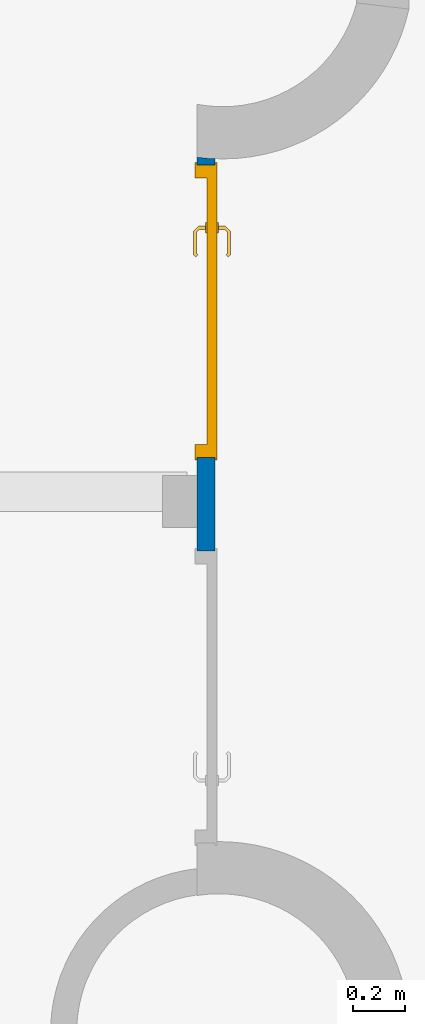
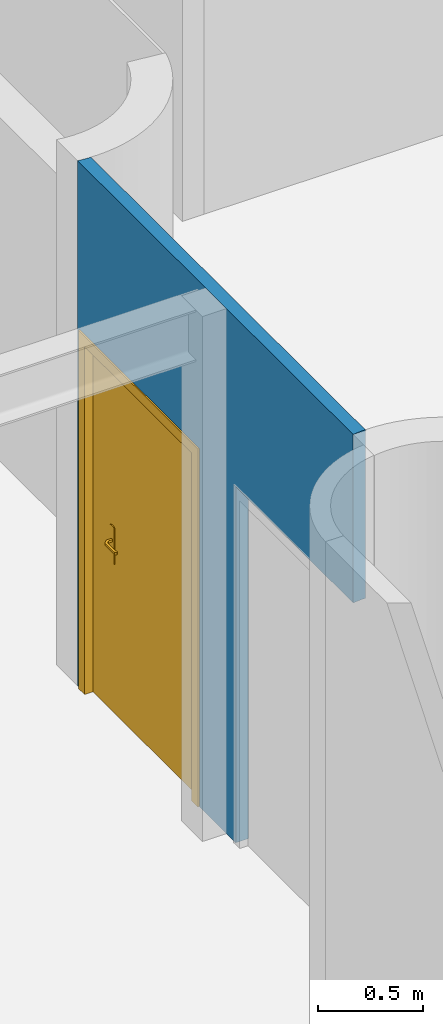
# One storey, part 3 of 7: 1 door, 1 wall, 2 openings.
"""IFC2X3 building model written with IfcOpenShell, lengths in metres."""

from ifc_helpers import new_model, entity, si_unit, converted_unit, derived_unit, direction, frame, frame_2d, origin, place, context, subcontext, project, spatial, polyline, circle_curve, parameter, trimmed, segment, composite_curve, rectangle, outline, extrude, clip, bounded_halfspace, faceted_brep, source, transform, mapped, material, material_list, layer, layer_set, layer_usage, type_object, type_shapes, element, fill, save


model = new_model("IFC2X3")

# Units and contexts
model_context = context("Model", 3, precision=1e-05, world=origin(), true_north=direction((6.12303176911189e-17, 1.0)))
body_context = subcontext(model_context, "Body", "Model", "MODEL_VIEW")
ifc_project = project(units=[si_unit("LENGTHUNIT", "METRE"), si_unit("AREAUNIT", "SQUARE_METRE"), si_unit("VOLUMEUNIT", "CUBIC_METRE"), converted_unit("PLANEANGLEUNIT", "DEGREE", entity("IfcRatioMeasure", 0.0174532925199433), si_unit("PLANEANGLEUNIT", "RADIAN"), dimensions=[0, 0, 0, 0, 0, 0, 0]), si_unit("MASSUNIT", "GRAM", prefix="KILO"), derived_unit("MASSDENSITYUNIT", [(si_unit("MASSUNIT", "GRAM", prefix="KILO"), 1), (si_unit("LENGTHUNIT", "METRE"), -3)]), derived_unit("MOMENTOFINERTIAUNIT", [(si_unit("LENGTHUNIT", "METRE"), 4)]), si_unit("TIMEUNIT", "SECOND"), si_unit("FREQUENCYUNIT", "HERTZ"), si_unit("THERMODYNAMICTEMPERATUREUNIT", "DEGREE_CELSIUS"), derived_unit("THERMALTRANSMITTANCEUNIT", [(si_unit("MASSUNIT", "GRAM", prefix="KILO"), 1), (si_unit("THERMODYNAMICTEMPERATUREUNIT", "KELVIN"), -1), (si_unit("TIMEUNIT", "SECOND"), -3)]), derived_unit("VOLUMETRICFLOWRATEUNIT", [(si_unit("LENGTHUNIT", "METRE"), 3), (si_unit("TIMEUNIT", "SECOND"), -1)]), si_unit("ELECTRICCURRENTUNIT", "AMPERE"), si_unit("ELECTRICVOLTAGEUNIT", "VOLT"), si_unit("POWERUNIT", "WATT"), si_unit("FORCEUNIT", "NEWTON", prefix="KILO"), si_unit("ILLUMINANCEUNIT", "LUX"), si_unit("LUMINOUSFLUXUNIT", "LUMEN"), si_unit("LUMINOUSINTENSITYUNIT", "CANDELA"), derived_unit("USERDEFINED", [(si_unit("MASSUNIT", "GRAM", prefix="KILO"), -1), (si_unit("LENGTHUNIT", "METRE"), -2), (si_unit("TIMEUNIT", "SECOND"), 3), (si_unit("LUMINOUSFLUXUNIT", "LUMEN"), 1)]), derived_unit("LINEARVELOCITYUNIT", [(si_unit("LENGTHUNIT", "METRE"), 1), (si_unit("TIMEUNIT", "SECOND"), -1)]), si_unit("PRESSUREUNIT", "PASCAL"), derived_unit("USERDEFINED", [(si_unit("LENGTHUNIT", "METRE"), -2), (si_unit("MASSUNIT", "GRAM", prefix="KILO"), 1), (si_unit("TIMEUNIT", "SECOND"), -2)]), derived_unit("LINEARFORCEUNIT", [(si_unit("MASSUNIT", "GRAM", prefix="KILO"), 1), (si_unit("LENGTHUNIT", "METRE"), 1), (si_unit("TIMEUNIT", "SECOND"), -2), (si_unit("LENGTHUNIT", "METRE"), -1)]), derived_unit("PLANARFORCEUNIT", [(si_unit("MASSUNIT", "GRAM", prefix="KILO"), 1), (si_unit("LENGTHUNIT", "METRE"), 1), (si_unit("TIMEUNIT", "SECOND"), -2), (si_unit("LENGTHUNIT", "METRE"), -2)])], contexts=[model_context])

# Site, building, storey
site_placement = place(None, origin())
site = spatial("IfcSite", under=ifc_project, at=site_placement, Name="Default", CompositionType="ELEMENT")
building_placement = place(site_placement, origin())
building = spatial("IfcBuilding", under=site, at=building_placement, CompositionType="ELEMENT")
storey_placement = place(building_placement, frame((0.0, 0.0, 7.36730827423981)))
storey = spatial("IfcBuildingStorey", under=building, at=storey_placement, Name="Niveau 2", CompositionType="ELEMENT", Elevation=7.36730827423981)

# Wall, openings, door
ifc_material_1 = material(Name="Mur par défaut")
ifc_layer = layer(ifc_material_1, 0.07)
ifc_layer_set = layer_set([ifc_layer], Name="Mur de base:@_Générique - Int. 70 mm")
ifc_layer_usage = layer_usage(ifc_layer_set, "AXIS2", "NEGATIVE", 0.035)
wall_type = type_object("IfcWallType", Name="Mur de base:@_Générique - Int. 70 mm", PredefinedType="STANDARD", material=ifc_layer_set)
wall_placement = place(storey_placement, frame((-19.5215153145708, -1.9696922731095, 0.0), z_axis=(0.0, 0.0, 1.0), x_axis=(0.0, 1.0, 0.0)))
wall = element("IfcWallStandardCase", 1, at=wall_placement, inside=storey, type_object=wall_type, material=ifc_layer_usage, Name="Mur de base:@_Générique - Int. 70 mm", ObjectType="Mur de base:@_Générique - Int. 70 mm", context=body_context, shape_type="Clipping", body=[
    clip(extrude(outline(composite_curve([segment(polyline([(0.00474320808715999, -0.035), (2.62195450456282, -0.0350000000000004)]), True, "CONTINUOUS"), segment(trimmed(circle_curve(frame_2d((3.35136647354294, -0.0642947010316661), x_axis=(0.0, -1.0)), 0.73), [parameter(262.182386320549)], [parameter(267.700118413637)], True, "PARAMETER"), False, "CONTINUOUS"), segment(polyline([(2.62815104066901, 0.0349999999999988), (0.0, 0.0350000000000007)]), True, "CONTINUOUS"), segment(trimmed(circle_curve(frame_2d((-0.725116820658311, -0.0492946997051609), x_axis=(0.0, -1.0)), 0.73), [parameter(91.12202512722)], [parameter(96.6308611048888)], True, "PARAMETER"), False, "CONTINUOUS")], self_intersect=False)), origin(), (0.0, 0.0, 1.0), 3.05600000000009), bounded_halfspace(frame((0.00474320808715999, -0.0350000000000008, 3.05600000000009), z_axis=(0.0, 0.0, -1.0), x_axis=(1.0, 0.0, 0.0)), True, frame((0.00474320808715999, -0.0350000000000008, 3.05600000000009)), composite_curve([segment(polyline([(0.0, 0.0), (0.797726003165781, 0.0)]), True, "CONTINUOUS"), segment(trimmed(circle_curve(frame_2d((1.02005077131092, -0.00892902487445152), x_axis=(0.0, -1.0)), 0.73), [parameter(262.182386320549)], [parameter(267.700118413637)], True, "PARAMETER"), False, "CONTINUOUS"), segment(polyline([(0.799614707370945, 0.0213359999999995), (-0.00144572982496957, 0.0213360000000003)]), True, "CONTINUOUS"), segment(trimmed(circle_curve(frame_2d((-0.222461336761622, -0.00435702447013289), x_axis=(0.0, -1.0)), 0.73), [parameter(91.12202512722)], [parameter(96.6308611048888)], True, "PARAMETER"), False, "CONTINUOUS")], self_intersect=False))),
])
opening_1_placement = place(wall_placement, frame((2.59730059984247, 0.0350000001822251, 0.0)))
opening_1 = element("IfcOpeningElement", 2, at=opening_1_placement, cuts=wall, Name="Tierce  160:1.10m x 2.04m:1", ObjectType="Opening", context=body_context, shape_type="SweptSolid", body=[
    extrude(rectangle(XDim=2.075, YDim=1.12, at=frame_2d((1.0375, 0.559999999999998), x_axis=(1.0, 0.0))), frame((0.0, 0.0, 0.0), z_axis=(0.0, -1.0, 0.0), x_axis=(0.0, 0.0, 1.0)), (0.0, 0.0, 1.0), 0.07),
])
opening_2_placement = place(wall_placement, frame((1.1189490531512, 0.0350000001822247, 0.0)))
element("IfcOpeningElement", 3, at=opening_2_placement, cuts=wall, Name="Tierce  160:1.10m x 2.04m:1", ObjectType="Opening", context=body_context, shape_type="SweptSolid", body=[
    extrude(rectangle(XDim=2.075, YDim=1.12, at=frame_2d((1.0375, 0.559999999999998), x_axis=(1.0, 0.0))), frame((0.0, 0.0, 0.0), z_axis=(0.0, -1.0, 0.0), x_axis=(0.0, 0.0, 1.0)), (0.0, 0.0, 1.0), 0.07),
])
ifc_material_2 = material(Name="Porte - Poignée")
ifc_material_3 = material(Name="Porte - Cadre")
ifc_material_4 = material(Name="Verre")
ifc_material_5 = material(Name="Porte - Panneau")
ifc_material_list_1 = material_list([ifc_material_2, ifc_material_3, ifc_material_4, ifc_material_5])
ifc_material_list_2 = material_list([ifc_material_5, ifc_material_3, ifc_material_5, ifc_material_2])
door_style = type_object("IfcDoorStyle", Name="Tierce  160:1.10m x 2.04m", ConstructionType="NOTDEFINED", OperationType="NOTDEFINED", ParameterTakesPrecedence=False, Sizeable=False, material=ifc_material_list_2)
shared_shape = source(origin(), body_context, "Body", "Brep", [
    faceted_brep([(0.882025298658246, 0.0369999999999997, 1.00778044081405), (0.877974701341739, 0.0369999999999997, 1.00778044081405), (0.873999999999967, 0.0369999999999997, 1.00699999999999), (0.873999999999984, 0.0369999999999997, 0.993000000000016), (0.877974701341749, 0.0369999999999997, 0.992219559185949), (0.882025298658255, 0.0369999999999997, 0.992219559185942), (0.886000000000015, 0.0369999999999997, 0.992999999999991), (0.886000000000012, 0.0369999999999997, 1.00699999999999), (0.873999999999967, 0.0594852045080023, 1.00699999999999), (0.873999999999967, 0.0594852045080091, 0.993000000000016), (0.877974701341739, 0.0611315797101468, 1.00778044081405), (0.882025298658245, 0.0628093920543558, 1.00778044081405), (0.865838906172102, 0.0789957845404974, 1.00778044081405), (0.864161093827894, 0.0749451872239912, 1.00778044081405), (0.78079312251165, 0.0749451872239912, 1.00778044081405), (0.779115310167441, 0.0789957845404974, 1.00778044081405), (0.771451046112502, 0.0713315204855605, 1.00778044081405), (0.774315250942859, 0.0684673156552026, 1.00778044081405), (0.886000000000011, 0.064455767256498, 1.00699999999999), (0.886000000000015, 0.0644557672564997, 0.992999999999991), (0.882025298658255, 0.0628093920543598, 0.992219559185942), (0.877974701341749, 0.0611315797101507, 0.992219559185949), (0.864161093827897, 0.0749451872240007, 0.992219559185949), (0.865838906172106, 0.0789957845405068, 0.992219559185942), (0.779115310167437, 0.0789957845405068, 0.992219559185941), (0.780793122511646, 0.0749451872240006, 0.992219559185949), (0.774315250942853, 0.068467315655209, 0.992219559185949), (0.771451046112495, 0.0713315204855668, 0.992219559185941), (0.862514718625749, 0.0709704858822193, 1.00699999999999), (0.862514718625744, 0.0709704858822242, 0.993000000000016), (0.867485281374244, 0.0829704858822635, 1.00699999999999), (0.867485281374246, 0.0829704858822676, 0.992999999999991), (0.822477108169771, 0.0709704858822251, 1.00699999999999), (0.782439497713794, 0.0709704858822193, 1.00699999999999), (0.782439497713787, 0.0709704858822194, 0.993000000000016), (0.822477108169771, 0.0709704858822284, 0.993000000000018), (0.8224771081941, 0.0771249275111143, 1.00787811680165), (0.817399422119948, 0.0829704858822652, 1.00699999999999), (0.777468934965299, 0.0829704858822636, 1.00699999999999), (0.827554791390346, 0.0829704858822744, 0.992999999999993), (0.777468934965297, 0.0829704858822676, 0.992999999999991), (0.822477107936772, 0.0771249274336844, 0.992121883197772), (0.768640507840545, 0.0741420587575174, 1.00699999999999), (0.768640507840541, 0.0741420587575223, 0.992999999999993), (0.777125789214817, 0.0656567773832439, 0.993000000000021), (0.777125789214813, 0.0656567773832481, 1.00699999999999)], [[[0, 1, 2, 3, 4, 5, 6, 7]], [[8, 9, 3, 2]], [[1, 10, 8, 2]], [[1, 0, 11, 12, 13, 10]], [[14, 15, 16, 17]], [[7, 18, 11, 0]], [[18, 7, 6, 19]], [[6, 5, 20, 19]], [[5, 4, 21, 22, 23, 20]], [[24, 25, 26, 27]], [[4, 3, 9, 21]], [[28, 29, 9, 8]], [[8, 10, 13, 28]], [[18, 30, 12, 11]], [[31, 30, 18, 19]], [[19, 20, 23, 31]], [[21, 9, 29, 22]], [[29, 28, 32, 33, 34, 35]], [[36, 32, 13]], [[37, 38, 15]], [[37, 12, 30]], [[36, 12, 37]], [[14, 32, 36]], [[36, 15, 14]], [[28, 13, 32]], [[32, 14, 33]], [[12, 36, 13]], [[15, 36, 37]], [[30, 31, 39, 40, 38, 37]], [[23, 41, 39]], [[24, 39, 41]], [[39, 31, 23]], [[39, 24, 40]], [[22, 35, 41]], [[41, 23, 22]], [[41, 35, 25]], [[35, 22, 29]], [[34, 25, 35]], [[24, 41, 25]], [[17, 16, 42, 43, 27, 26, 44, 45]], [[45, 44, 34, 33]], [[33, 14, 17, 45]], [[15, 38, 42, 16]], [[43, 42, 38, 40]], [[24, 27, 43, 40]], [[34, 44, 26, 25]]]),
    faceted_brep([(0.877974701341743, -0.0130000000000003, 1.00778044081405), (0.882025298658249, -0.0130000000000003, 1.00778044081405), (0.886000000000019, -0.0130000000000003, 1.00699999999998), (0.886000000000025, -0.0130000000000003, 0.992999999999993), (0.882025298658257, -0.0130000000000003, 0.992219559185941), (0.877974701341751, -0.0130000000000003, 0.992219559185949), (0.87399999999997, -0.0130000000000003, 0.993000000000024), (0.873999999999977, -0.0130000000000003, 1.00699999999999), (0.882025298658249, -0.0390045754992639, 1.00778044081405), (0.88600000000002, -0.0406509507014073, 1.00699999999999), (0.877974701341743, -0.0373267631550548, 1.00778044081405), (0.864298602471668, -0.0510028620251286, 1.00778044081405), (0.865976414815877, -0.0550534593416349, 1.00778044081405), (0.779142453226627, -0.0550534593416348, 1.00778044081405), (0.780820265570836, -0.0510028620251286, 1.00778044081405), (0.774342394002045, -0.0445249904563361, 1.00778044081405), (0.771478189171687, -0.0473891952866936, 1.00778044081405), (0.873999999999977, -0.0356803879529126, 1.00699999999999), (0.87399999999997, -0.0356803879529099, 0.993000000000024), (0.877974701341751, -0.0373267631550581, 0.992219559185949), (0.882025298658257, -0.0390045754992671, 0.992219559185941), (0.86597641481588, -0.0550534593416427, 0.992219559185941), (0.864298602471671, -0.0510028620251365, 0.992219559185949), (0.780820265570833, -0.0510028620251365, 0.992219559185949), (0.779142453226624, -0.0550534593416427, 0.992219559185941), (0.771478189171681, -0.0473891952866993, 0.992219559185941), (0.774342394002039, -0.0445249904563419, 0.992219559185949), (0.886000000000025, -0.04065095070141, 0.992999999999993), (0.867622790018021, -0.0590281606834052, 1.00699999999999), (0.862652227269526, -0.0470281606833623, 1.00699999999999), (0.862652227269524, -0.0470281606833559, 0.993000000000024), (0.867622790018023, -0.0590281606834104, 0.992999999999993), (0.822559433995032, -0.0531828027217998, 1.00787811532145), (0.827692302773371, -0.059028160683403, 1.00699999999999), (0.777496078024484, -0.0590281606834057, 1.00699999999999), (0.822559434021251, -0.0470281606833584, 1.00699999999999), (0.782466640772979, -0.0470281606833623, 1.00699999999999), (0.822559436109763, -0.0470281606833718, 0.993000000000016), (0.782466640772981, -0.0470281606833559, 0.993000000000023), (0.822559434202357, -0.0531828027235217, 0.992121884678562), (0.817426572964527, -0.0590281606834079, 0.992999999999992), (0.777496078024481, -0.0590281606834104, 0.992999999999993), (0.777152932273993, -0.041714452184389, 0.993000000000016), (0.768667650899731, -0.0501997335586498, 0.992999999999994), (0.768667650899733, -0.0501997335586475, 1.00699999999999), (0.777152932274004, -0.0417144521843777, 1.00699999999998)], [[[0, 1, 2, 3, 4, 5, 6, 7]], [[2, 1, 8, 9]], [[1, 0, 10, 11, 12, 8]], [[13, 14, 15, 16]], [[0, 7, 17, 10]], [[18, 17, 7, 6]], [[5, 19, 18, 6]], [[5, 4, 20, 21, 22, 19]], [[23, 24, 25, 26]], [[3, 27, 20, 4]], [[9, 27, 3, 2]], [[9, 8, 12, 28]], [[10, 17, 29, 11]], [[30, 29, 17, 18]], [[18, 19, 22, 30]], [[20, 27, 31, 21]], [[28, 31, 27, 9]], [[12, 32, 33]], [[13, 33, 32]], [[33, 28, 12]], [[33, 13, 34]], [[11, 35, 32]], [[32, 12, 11]], [[32, 35, 14]], [[35, 11, 29]], [[36, 14, 35]], [[13, 32, 14]], [[29, 30, 37, 38, 36, 35]], [[39, 37, 22]], [[40, 41, 24]], [[40, 21, 31]], [[39, 21, 40]], [[23, 37, 39]], [[39, 24, 23]], [[30, 22, 37]], [[37, 23, 38]], [[21, 39, 22]], [[24, 39, 40]], [[31, 28, 33, 34, 41, 40]], [[42, 26, 25, 43, 44, 16, 15, 45]], [[13, 16, 44, 34]], [[36, 45, 15, 14]], [[42, 45, 36, 38]], [[38, 23, 26, 42]], [[24, 41, 43, 25]], [[44, 43, 41, 34]]]),
    faceted_brep([(0.879999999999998, 0.0319999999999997, 0.864641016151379), (0.890352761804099, 0.0319999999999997, 0.866003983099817), (0.899999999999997, 0.0319999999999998, 0.870000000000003), (0.899999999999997, 0.0319999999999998, 1.08), (0.890352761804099, 0.0319999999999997, 1.08399601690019), (0.879999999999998, 0.0319999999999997, 1.08535898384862), (0.869647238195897, 0.0319999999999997, 1.08399601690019), (0.859999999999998, 0.0319999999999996, 1.08), (0.859999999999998, 0.0319999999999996, 0.870000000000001), (0.869647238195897, 0.0319999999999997, 0.866003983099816), (0.879999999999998, 0.0369999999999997, 1.08535898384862), (0.890352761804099, 0.0369999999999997, 1.08399601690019), (0.899999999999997, 0.0369999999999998, 1.08), (0.899999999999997, 0.0369999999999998, 0.870000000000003), (0.890352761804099, 0.0369999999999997, 0.866003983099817), (0.879999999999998, 0.0369999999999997, 0.864641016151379), (0.869647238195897, 0.0369999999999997, 0.866003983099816), (0.859999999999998, 0.0369999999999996, 0.870000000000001), (0.859999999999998, 0.0369999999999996, 1.08), (0.869647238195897, 0.0369999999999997, 1.08399601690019)], [[[0, 1, 2, 3, 4, 5, 6, 7, 8, 9]], [[10, 11, 12, 13, 14, 15, 16, 17, 18, 19]], [[6, 19, 18, 7]], [[5, 10, 19, 6]], [[4, 11, 10, 5]], [[4, 3, 12, 11]], [[12, 3, 2, 13]], [[1, 14, 13, 2]], [[0, 15, 14, 1]], [[9, 16, 15, 0]], [[9, 8, 17, 16]], [[17, 8, 7, 18]]]),
    faceted_brep([(0.879999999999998, -0.0130000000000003, 0.864641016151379), (0.890352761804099, -0.0130000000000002, 0.866003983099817), (0.899999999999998, -0.0130000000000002, 0.870000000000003), (0.899999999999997, -0.0130000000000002, 1.08), (0.890352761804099, -0.0130000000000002, 1.08399601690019), (0.879999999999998, -0.0130000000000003, 1.08535898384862), (0.869647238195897, -0.0130000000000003, 1.08399601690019), (0.859999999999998, -0.0130000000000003, 1.08), (0.859999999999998, -0.0130000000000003, 0.870000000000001), (0.869647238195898, -0.0130000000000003, 0.866003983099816), (0.899999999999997, -0.00800000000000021, 1.08), (0.899999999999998, -0.00800000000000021, 0.870000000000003), (0.890352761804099, -0.00800000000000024, 0.866003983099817), (0.879999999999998, -0.00800000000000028, 0.864641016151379), (0.869647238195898, -0.00800000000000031, 0.866003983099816), (0.859999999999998, -0.00800000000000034, 0.870000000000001), (0.859999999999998, -0.00800000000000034, 1.08), (0.869647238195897, -0.00800000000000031, 1.08399601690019), (0.879999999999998, -0.00800000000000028, 1.08535898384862), (0.890352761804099, -0.00800000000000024, 1.08399601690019)], [[[0, 1, 2, 3, 4, 5, 6, 7, 8, 9]], [[10, 11, 12, 13, 14, 15, 16, 17, 18, 19]], [[1, 12, 11, 2]], [[0, 13, 12, 1]], [[9, 14, 13, 0]], [[9, 8, 15, 14]], [[15, 8, 7, 16]], [[6, 17, 16, 7]], [[5, 18, 17, 6]], [[4, 19, 18, 5]], [[4, 3, 10, 19]], [[10, 3, 2, 11]]]),
    faceted_brep([(0.0, 0.0, 0.0), (0.0, 0.0699999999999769, 0.0), (-0.0100000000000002, 0.0699999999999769, 0.0), (-0.0100000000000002, 0.0779999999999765, 0.0), (0.0499999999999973, 0.0779999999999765, 0.0), (0.0499999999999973, 0.032, 0.0), (0.0349999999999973, 0.032, 0.0), (0.0349999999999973, -0.00799999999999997, 0.0), (-0.0100000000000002, -0.00799999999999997, 0.0), (-0.0100000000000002, 0.0, 0.0), (0.0, 0.0, 2.075), (0.0, 0.0699999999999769, 2.075), (1.12, 0.0699999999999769, 2.075), (1.12, 0.0699999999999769, 0.0), (1.13, 0.0699999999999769, 0.0), (1.13, 0.0699999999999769, 2.085), (-0.0100000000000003, 0.0699999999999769, 2.085), (-0.0100000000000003, 0.0779999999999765, 2.085), (1.13, 0.0779999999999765, 2.085), (1.13, 0.0779999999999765, 0.0), (1.07, 0.0779999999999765, 0.0), (1.07, 0.0779999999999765, 2.025), (0.0499999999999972, 0.0779999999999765, 2.025), (0.0499999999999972, 0.032, 2.025), (1.07, 0.032, 2.025), (1.07, 0.032, 0.0), (1.085, 0.032, 0.0), (1.085, 0.032, 2.04), (0.0349999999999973, 0.032, 2.04), (0.0349999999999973, -0.00799999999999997, 2.04), (1.085, -0.00799999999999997, 2.04), (1.085, -0.00799999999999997, 0.0), (1.13, -0.00799999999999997, 0.0), (1.13, -0.00799999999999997, 2.085), (-0.0100000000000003, -0.00799999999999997, 2.085), (-0.0100000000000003, 0.0, 2.085), (1.13, 0.0, 2.085), (1.13, 0.0, 0.0), (1.12, 0.0, 0.0), (1.12, 0.0, 2.075)], [[[0, 1, 2, 3, 4, 5, 6, 7, 8, 9]], [[1, 0, 10, 11]], [[2, 1, 11, 12, 13, 14, 15, 16]], [[3, 2, 16, 17]], [[4, 3, 17, 18, 19, 20, 21, 22]], [[5, 4, 22, 23]], [[6, 5, 23, 24, 25, 26, 27, 28]], [[7, 6, 28, 29]], [[8, 7, 29, 30, 31, 32, 33, 34]], [[9, 8, 34, 35]], [[0, 9, 35, 36, 37, 38, 39, 10]], [[12, 39, 38, 13]], [[38, 37, 32, 31, 26, 25, 20, 19, 14, 13]], [[18, 15, 14, 19]], [[24, 21, 20, 25]], [[30, 27, 26, 31]], [[36, 33, 32, 37]], [[11, 10, 39, 12]], [[17, 16, 15, 18]], [[23, 22, 21, 24]], [[29, 28, 27, 30]], [[35, 34, 33, 36]]]),
    faceted_brep([(1.025, -0.00799999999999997, 1.03749999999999), (1.025, -0.00799999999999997, 1.98), (0.994999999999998, -0.00799999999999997, 1.98), (0.994999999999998, -0.00799999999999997, 1.03749999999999), (1.025, 0.032, 1.03749999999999), (1.025, 0.032, 1.98), (0.994999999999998, 0.032, 1.98), (0.994999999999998, 0.032, 1.03749999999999)], [[[0, 1, 2, 3]], [[1, 0, 4, 5]], [[2, 1, 5, 6]], [[3, 2, 6, 7]], [[0, 3, 7, 4]], [[4, 7, 6, 5]]]),
    faceted_brep([(0.994999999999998, 0.032, 0.837499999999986), (1.025, 0.032, 0.837499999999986), (1.025, 0.032, 0.06), (0.994999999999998, 0.032, 0.06), (0.994999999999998, -0.00799999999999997, 0.06), (0.994999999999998, -0.00799999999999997, 0.837499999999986), (1.025, -0.00799999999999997, 0.06), (1.025, -0.00799999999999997, 0.837499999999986)], [[[0, 1, 2, 3]], [[4, 5, 0, 3]], [[6, 4, 3, 2]], [[7, 6, 2, 1]], [[5, 7, 1, 0]], [[5, 4, 6, 7]]]),
    faceted_brep([(1.085, -0.00799999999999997, 2.04), (0.934999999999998, -0.00799999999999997, 2.04), (0.934999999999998, -0.00799999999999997, 0.0), (1.085, -0.00799999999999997, 0.0), (0.994999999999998, -0.00799999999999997, 0.837499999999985), (1.025, -0.00799999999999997, 0.837499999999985), (1.025, -0.00799999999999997, 0.0600000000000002), (0.994999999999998, -0.00799999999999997, 0.0600000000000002), (1.025, -0.00799999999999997, 1.03749999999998), (0.994999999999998, -0.00799999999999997, 1.03749999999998), (0.994999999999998, -0.00799999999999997, 1.98), (1.025, -0.00799999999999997, 1.98), (1.085, 0.032, 2.04), (1.085, 0.032, 0.0), (0.934999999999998, 0.032, 0.0), (0.934999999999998, 0.032, 2.04), (0.994999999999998, 0.032, 0.837499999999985), (0.994999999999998, 0.032, 0.0600000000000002), (1.025, 0.032, 0.0600000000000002), (1.025, 0.032, 0.837499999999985), (1.025, 0.032, 1.03749999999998), (1.025, 0.032, 1.98), (0.994999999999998, 0.032, 1.98), (0.994999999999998, 0.032, 1.03749999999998)], [[[0, 1, 2, 3], [4, 5, 6, 7], [8, 9, 10, 11]], [[12, 13, 14, 15], [16, 17, 18, 19], [20, 21, 22, 23]], [[1, 0, 12, 15]], [[2, 1, 15, 14]], [[3, 2, 14, 13]], [[0, 3, 13, 12]], [[5, 4, 16, 19]], [[6, 5, 19, 18]], [[7, 6, 18, 17]], [[4, 7, 17, 16]], [[9, 8, 20, 23]], [[10, 9, 23, 22]], [[11, 10, 22, 21]], [[8, 11, 21, 20]]]),
    faceted_brep([(0.0349999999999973, -0.00799999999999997, 0.0), (0.934999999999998, -0.00799999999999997, 0.0), (0.934999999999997, -0.00799999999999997, 2.04), (0.0349999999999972, -0.00799999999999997, 2.04), (0.0349999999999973, 0.032, 0.0), (0.0349999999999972, 0.032, 2.04), (0.934999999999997, 0.032, 2.04), (0.934999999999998, 0.032, 0.0)], [[[0, 1, 2, 3]], [[4, 5, 6, 7]], [[1, 0, 4, 7]], [[2, 1, 7, 6]], [[3, 2, 6, 5]], [[0, 3, 5, 4]]]),
])
type_shapes(door_style, [shared_shape])
door_placement = place(opening_1_placement, frame((-1.12, -0.0699999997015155, 0.0)))
door = element("IfcDoor", 4, at=door_placement, inside=storey, type_object=door_style, material=ifc_material_list_1, Name="Tierce  160:1.10m x 2.04m", ObjectType="Tierce  160:1.10m x 2.04m", OverallHeight=2.075, OverallWidth=1.12, context=body_context, shape_type="MappedRepresentation", body=[
    mapped(shared_shape, transform((0.0, 0.0, 0.0), scale=1.0)),
])
fill(opening_1, door)

save(model, "model.ifc")
